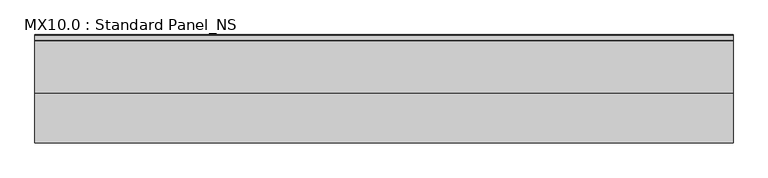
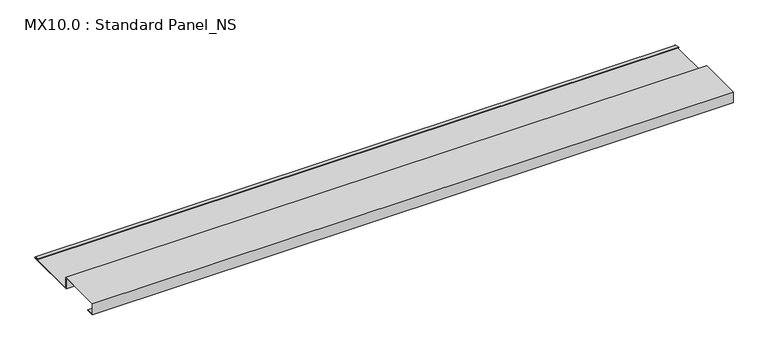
"""IFC4 building model written with IfcOpenShell, lengths in millimetres: proxy geometry, MX10.0 : Standard Panel_NS."""

from ifc_helpers import new_model, si_unit, point, frame, frame_2d, origin, place, context, project, spatial, polyline, circle_curve, trimmed, segment, composite_curve, outline, extrude, source, transform, mapped, element, save


def mx10_0_standard_panel_ns_11ffd0d8(model_context):
    return source(origin(), model_context, "Body", "SweptSolid", [
        extrude(outline(composite_curve([segment(polyline([(0.0, 0.0), (0.0, 38.0), (150.0, 38.0), (150.0, 0.0), (324.8317866, 0.0)]), True, "CONTINUOUS"), segment(trimmed(circle_curve(frame_2d((324.3094696, 0.9153551)), 1.0538928), [point((324.8317866, 0.0))], [point((324.8448691, 1.8231201))], True, "CARTESIAN"), True, "CONTINUOUS"), segment(polyline([(324.8448691, 1.8231201), (308.5989911, 4.94103), (308.7874714, 5.923107), (325.1748462, 2.778041)]), True, "CONTINUOUS"), segment(trimmed(circle_curve(frame_2d((324.3094696, 0.9153551)), 2.0538928), [point((325.1748462, 2.778041))], [point((325.0510156, -1.0))], False, "CARTESIAN"), True, "CONTINUOUS"), segment(polyline([(325.0510156, -1.0), (149.0, -1.0), (149.0, 37.0), (1.0, 37.0), (1.0, 1.0), (25.0, 1.0), (25.0, 0.0), (0.0, 0.0)]), True, "CONTINUOUS")], self_intersect=False)), frame((0.0, 0.0, 0.0), z_axis=(1.0, 0.0, 0.0), x_axis=(0.0, 1.0, 0.0)), (0.0, 0.0, 1.0), 2100.0),
    ])


if __name__ == "__main__":
    model = new_model("IFC4")
    model_context = context("Model", 3, world=origin())
    ifc_project = project(units=[si_unit("LENGTHUNIT", "METRE", prefix="MILLI")], contexts=[model_context])
    site = spatial("IfcSite", under=ifc_project)
    building = spatial("IfcBuilding", under=site)
    placement = place(None, origin())
    mx10_0_standard_panel_ns_shape = mx10_0_standard_panel_ns_11ffd0d8(model_context)
    element("IfcBuildingElementProxy", 1, Name="MX10.0 : Standard Panel_NS", ObjectType="MX10.0 : Standard Panel_NS", at=placement, inside=building, context=model_context, shape_type="MappedRepresentation", body=[
        mapped(mx10_0_standard_panel_ns_shape, transform((0.0, 0.0, 0.0), x_axis=(1.0, 0.0, 0.0), y_axis=(0.0, 1.0, 0.0), z_axis=(0.0, 0.0, 1.0))),
    ])
    save(model, "model.ifc")
